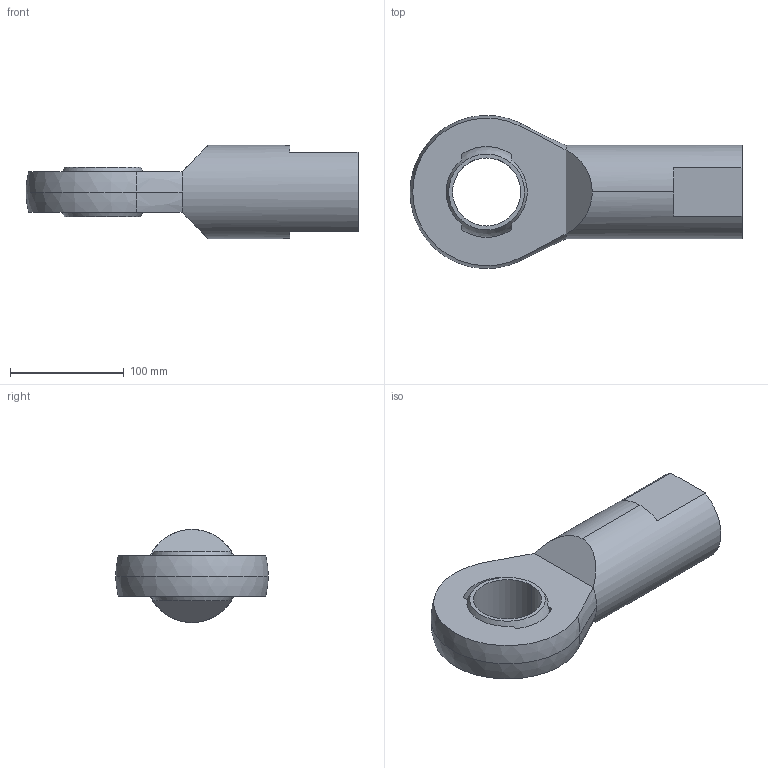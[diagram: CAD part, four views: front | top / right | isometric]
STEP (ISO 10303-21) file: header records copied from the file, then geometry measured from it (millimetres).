
FILE_DESCRIPTION (( 'STEP AP203' ), '1' );
FILE_NAME ('65880.W0160.step', '2014-02-06T18:37:35', ( 'User' ), ( '' ), 'SwSTEP 2.0', 'SolidWorks 2009', '' );
FILE_SCHEMA (( 'CONFIG_CONTROL_DESIGN' ));
Length unit declared in the file: millimetre
Products named in the file (3): 65880.W0160; Part1_65880.W0160; Part2_65880.W0160
Assembly tree (2 placements, depth 2):
  65880.W0160
    Part1_65880.W0160
    Part2_65880.W0160
Bounding box: 292.5 x 134.81 x 82 mm (x, y, z)
Volume: 918909.7 mm3; surface area: 127079.8 mm2
Topology: 2 solids, 2 shells, 45 faces, 108 edges, 67 vertices
Faces by surface type: plane 20, cylinder 10, sphere 8, cone 7
Entity records: 1624 total; most frequent: CARTESIAN_POINT 253, DIRECTION 253, ORIENTED_EDGE 208, AXIS2_PLACEMENT_3D 107, EDGE_CURVE 104, VERTEX_POINT 67, CIRCLE 57, EDGE_LOOP 53
